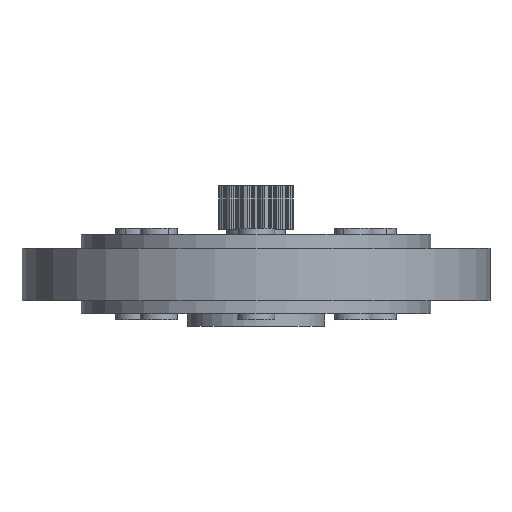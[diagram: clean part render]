
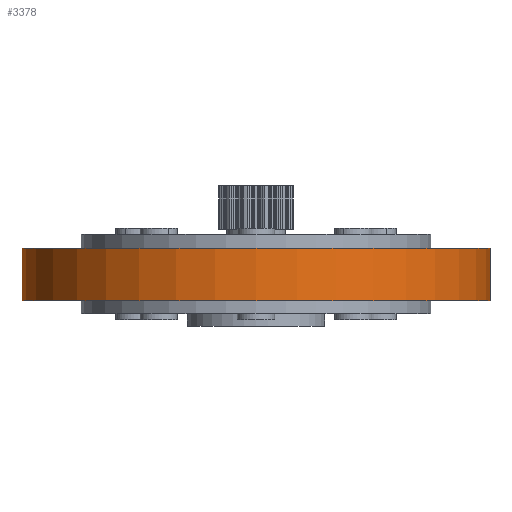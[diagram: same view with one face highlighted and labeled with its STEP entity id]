
A CAD part, front view. The second image highlights one B-rep face of the part: STEP entity #3378.
In plain terms, the highlighted cylindrical face has radius 37.5 mm (diameter 75 mm), a partial arc.
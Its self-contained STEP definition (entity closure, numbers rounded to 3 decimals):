
#620 = VERTEX_POINT ( 'NONE', #3794 ) ;
#911 = ORIENTED_EDGE ( 'NONE', *, *, #5373, .T. ) ;
#1104 = ORIENTED_EDGE ( 'NONE', *, *, #10788, .T. ) ;
#1234 = VERTEX_POINT ( 'NONE', #1255 ) ;
#1255 = CARTESIAN_POINT ( 'NONE',  ( -37.5, 0., -4.2 ) ) ;
#1518 = CIRCLE ( 'NONE', #4276, 37.5 ) ;
#1796 = DIRECTION ( 'NONE',  ( 0., 0., 1. ) ) ;
#2062 = DIRECTION ( 'NONE',  ( 0., 0., 1. ) ) ;
#2165 = AXIS2_PLACEMENT_3D ( 'NONE', #13086, #2062, #5432 ) ;
#2339 = DIRECTION ( 'NONE',  ( 0., 0., -1. ) ) ;
#3055 = DIRECTION ( 'NONE',  ( -1., 0., 0. ) ) ;
#3378 = ADVANCED_FACE ( 'NONE', ( #6133 ), #9543, .T. ) ;
#3419 = DIRECTION ( 'NONE',  ( 0., 0., -1. ) ) ;
#3448 = EDGE_LOOP ( 'NONE', ( #13221, #11001, #1104, #911 ) ) ;
#3794 = CARTESIAN_POINT ( 'NONE',  ( 37.5, 0., -4.2 ) ) ;
#4276 = AXIS2_PLACEMENT_3D ( 'NONE', #11676, #1796, #13616 ) ;
#4350 = VECTOR ( 'NONE', #3419, 1000. ) ;
#4500 = LINE ( 'NONE', #6704, #10838 ) ;
#4649 = VERTEX_POINT ( 'NONE', #13743 ) ;
#5373 = EDGE_CURVE ( 'NONE', #1234, #620, #1518, .T. ) ;
#5432 = DIRECTION ( 'NONE',  ( 1., 0., 0. ) ) ;
#5872 = VERTEX_POINT ( 'NONE', #8161 ) ;
#6133 = FACE_OUTER_BOUND ( 'NONE', #3448, .T. ) ;
#6683 = EDGE_CURVE ( 'NONE', #4649, #620, #8838, .T. ) ;
#6704 = CARTESIAN_POINT ( 'NONE',  ( -37.5, 0., 4.2 ) ) ;
#6708 = AXIS2_PLACEMENT_3D ( 'NONE', #13925, #11919, #3055 ) ;
#8161 = CARTESIAN_POINT ( 'NONE',  ( -37.5, 0., 4.2 ) ) ;
#8332 = CIRCLE ( 'NONE', #2165, 37.5 ) ;
#8838 = LINE ( 'NONE', #12285, #4350 ) ;
#9543 = CYLINDRICAL_SURFACE ( 'NONE', #6708, 37.5 ) ;
#10788 = EDGE_CURVE ( 'NONE', #5872, #1234, #4500, .T. ) ;
#10838 = VECTOR ( 'NONE', #2339, 1000. ) ;
#10972 = EDGE_CURVE ( 'NONE', #5872, #4649, #8332, .T. ) ;
#11001 = ORIENTED_EDGE ( 'NONE', *, *, #10972, .F. ) ;
#11676 = CARTESIAN_POINT ( 'NONE',  ( 0., 0., -4.2 ) ) ;
#11919 = DIRECTION ( 'NONE',  ( 0., 0., -1. ) ) ;
#12285 = CARTESIAN_POINT ( 'NONE',  ( 37.5, 0., 4.2 ) ) ;
#13086 = CARTESIAN_POINT ( 'NONE',  ( 0., 0., 4.2 ) ) ;
#13221 = ORIENTED_EDGE ( 'NONE', *, *, #6683, .F. ) ;
#13616 = DIRECTION ( 'NONE',  ( 1., 0., 0. ) ) ;
#13743 = CARTESIAN_POINT ( 'NONE',  ( 37.5, 0., 4.2 ) ) ;
#13925 = CARTESIAN_POINT ( 'NONE',  ( 0., 0., 4.2 ) ) ;
